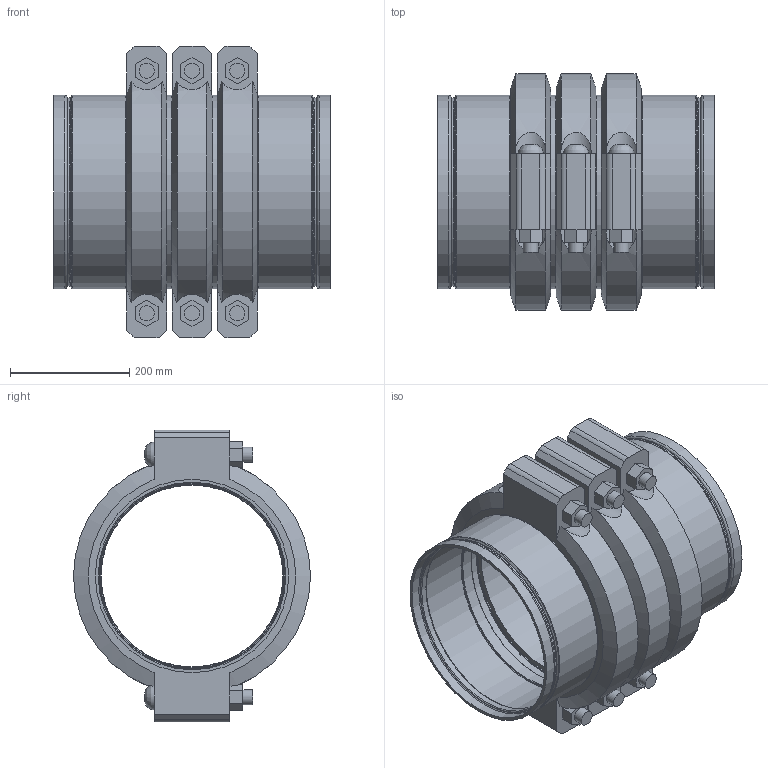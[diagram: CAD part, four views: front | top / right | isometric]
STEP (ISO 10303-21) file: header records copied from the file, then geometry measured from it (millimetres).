
FILE_DESCRIPTION(/* description */ ('VIC STRENGTHIN 100 EXPANSION JOINT 3 COUPLINGS EXPANDED STYLE E155 (ST1)','CAx-IF Rec.Pracs.---Representation and Presentation of Product Manufacturing Information (PMI)---4.0---2014-10-13'),/* implementation_level */ '2;1');
FILE_NAME(/* name */ 'C:\Users\Vjadhav\AppData\Roaming\Autodesk\ApplicationPlugins\Victaulic.Temp\A946\Victaulic_SS-StrengThin 100_Expansion Joint_Expanded_3 Couplings_Style E155 (ST1)_12 (300).stp',/* time_stamp */ '2021-07-23T19:28:36+06:00',/* author */ ('kkamble'),/* organization */ ('Victaulic'),/* preprocessor_version */ 'ST-DEVELOPER v17.2',/* originating_system */ 'Autodesk Inventor 2019',/* authorisation */ '');
FILE_SCHEMA (('AP242_MANAGED_MODEL_BASED_3D_ENGINEERING_MIM_LF { 1 0 10303 442 1 1 4 }'));
Length unit declared in the file: inch
Products named in the file (4): E155-12.0; E494G-12.0; Nipple-12.0; 077-12.0
Assembly tree (7 placements, depth 2):
  E155-12.0
    E494G-12.0  x2
    Nipple-12.0  x2
    077-12.0  x3
Bounding box: 462.79 x 397 x 488.95 mm (x, y, z)
Volume: 12953134.7 mm3; surface area: 1956092.7 mm2
Topology: 7 solids, 13 shells, 277 faces, 725 edges, 516 vertices
Faces by surface type: plane 134, cylinder 89, torus 32, cone 16, bspline 6
Full cylindrical faces by diameter (mm): 25.4 x12, 27.432 x6, 304.8 x2, 306.426 x2, 308.737 x2, 314.3 x6, 314.96 x3, 315.976 x2, 318.287 x6, 323.85 x18
Entity records: 4025 total; most frequent: CARTESIAN_POINT 826, DIRECTION 679, ORIENTED_EDGE 580, AXIS2_PLACEMENT_3D 292, EDGE_CURVE 290, VERTEX_POINT 209, CIRCLE 175, EDGE_LOOP 135
